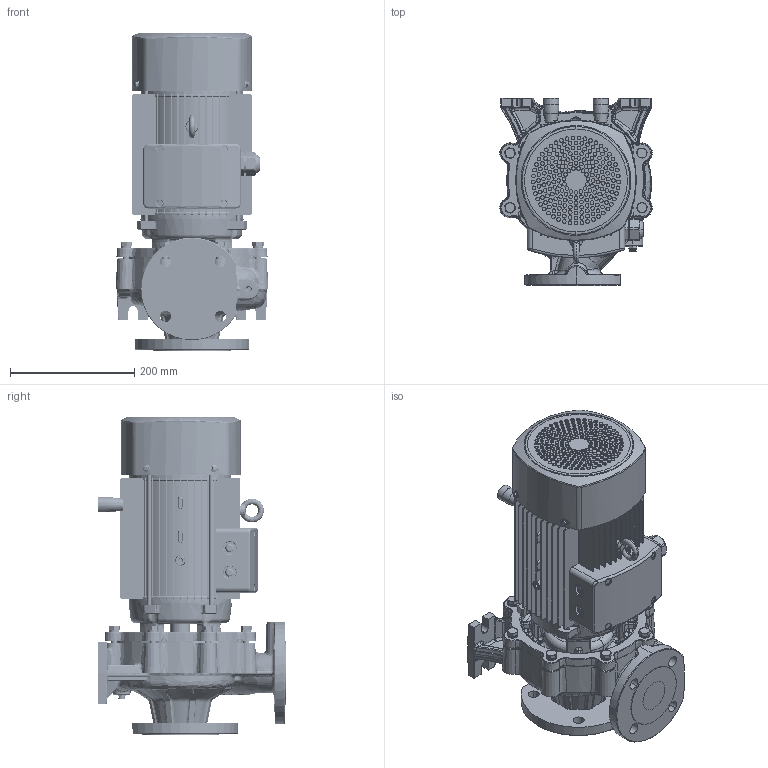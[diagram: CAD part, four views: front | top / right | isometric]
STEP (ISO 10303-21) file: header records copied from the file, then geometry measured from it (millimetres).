
FILE_DESCRIPTION (( 'STEP AP203' ), '1' );
FILE_NAME ('TST50-125-3 4安装尺寸图.STEP', '2026-04-28T09:03:54', ( '微软用户' ), ( '微软中国' ), 'SwSTEP 2.0', 'SolidWorks 2020', '' );
FILE_SCHEMA (( 'CONFIG_CONTROL_DESIGN' ));
Length unit declared in the file: millimetre
Products named in the file (1): TST50-125-3 4假蚾喜渡芞
Bounding box: 245.79 x 302.27 x 512.22 mm (x, y, z)
Volume: 14277337.6 mm3; surface area: 1005384.1 mm2
Topology: 5 solids, 5 shells, 3792 faces, 9311 edges, 5750 vertices
Faces by surface type: bspline 1040, cylinder 1037, plane 1026, cone 395, torus 258, sphere 36
Entity records: 165886 total; most frequent: CARTESIAN_POINT 83721, ORIENTED_EDGE 18524, DIRECTION 15456, EDGE_CURVE 9262, AXIS2_PLACEMENT_3D 6423, VERTEX_POINT 5746, EDGE_LOOP 4124, ADVANCED_FACE 3792
